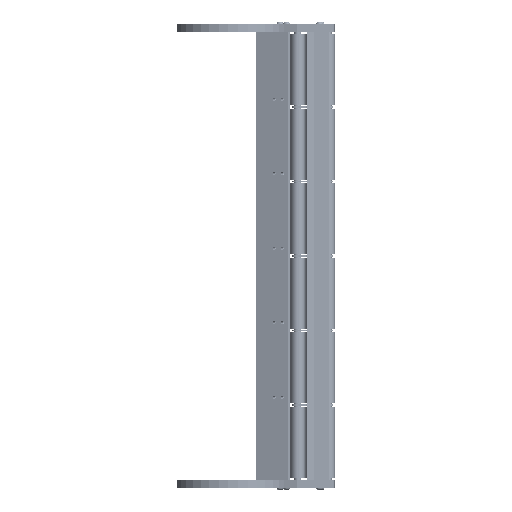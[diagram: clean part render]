
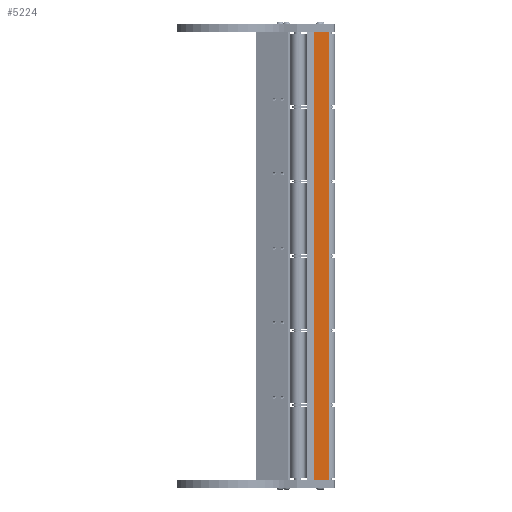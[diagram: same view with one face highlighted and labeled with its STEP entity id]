
A CAD part, front view. The second image highlights one B-rep face of the part: STEP entity #5224.
In plain terms, the highlighted planar face has unit normal (0.768, -0.641, 0) as drawn and (0, 1, 0) by its records, which use the part's own axes.
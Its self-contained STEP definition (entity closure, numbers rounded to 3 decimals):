
#778 = CARTESIAN_POINT ( 'NONE',  ( 25., 13.9, 0. ) ) ;
#908 = ORIENTED_EDGE ( 'NONE', *, *, #2297, .F. ) ;
#1076 = FACE_OUTER_BOUND ( 'NONE', #4120, .T. ) ;
#1355 = CARTESIAN_POINT ( 'NONE',  ( 25., 13.9, 0. ) ) ;
#1608 = CARTESIAN_POINT ( 'NONE',  ( 25., 13.9, 468. ) ) ;
#2297 = EDGE_CURVE ( 'NONE', #14665, #4362, #8223, .T. ) ;
#3270 = ORIENTED_EDGE ( 'NONE', *, *, #17933, .F. ) ;
#3671 = AXIS2_PLACEMENT_3D ( 'NONE', #12179, #9361, #17741 ) ;
#4120 = EDGE_LOOP ( 'NONE', ( #13201, #908, #3270, #10222 ) ) ;
#4362 = VERTEX_POINT ( 'NONE', #13873 ) ;
#5224 = ADVANCED_FACE ( 'NONE', ( #1076 ), #6640, .F. ) ;
#6199 = VECTOR ( 'NONE', #9920, 1000. ) ;
#6640 = PLANE ( 'NONE',  #3671 ) ;
#6706 = CARTESIAN_POINT ( 'NONE',  ( 0., 13.9, 468. ) ) ;
#7026 = CARTESIAN_POINT ( 'NONE',  ( 0., 13.9, 468. ) ) ;
#7104 = DIRECTION ( 'NONE',  ( 0., 0., -1. ) ) ;
#7976 = VECTOR ( 'NONE', #7104, 1000. ) ;
#8223 = LINE ( 'NONE', #6706, #13901 ) ;
#8468 = VECTOR ( 'NONE', #15897, 1000. ) ;
#9284 = VERTEX_POINT ( 'NONE', #15305 ) ;
#9361 = DIRECTION ( 'NONE',  ( 0., -1., 0. ) ) ;
#9746 = EDGE_CURVE ( 'NONE', #14530, #4362, #11893, .T. ) ;
#9920 = DIRECTION ( 'NONE',  ( -1., 0., 0. ) ) ;
#10222 = ORIENTED_EDGE ( 'NONE', *, *, #12991, .T. ) ;
#10872 = CARTESIAN_POINT ( 'NONE',  ( 25., 13.9, 468. ) ) ;
#11893 = LINE ( 'NONE', #778, #8468 ) ;
#12179 = CARTESIAN_POINT ( 'NONE',  ( 25., 13.9, 468. ) ) ;
#12242 = DIRECTION ( 'NONE',  ( 0., 0., -1. ) ) ;
#12745 = LINE ( 'NONE', #10872, #7976 ) ;
#12991 = EDGE_CURVE ( 'NONE', #9284, #14530, #12745, .T. ) ;
#13201 = ORIENTED_EDGE ( 'NONE', *, *, #9746, .T. ) ;
#13873 = CARTESIAN_POINT ( 'NONE',  ( 0., 13.9, 0. ) ) ;
#13901 = VECTOR ( 'NONE', #12242, 1000. ) ;
#14090 = LINE ( 'NONE', #1608, #6199 ) ;
#14530 = VERTEX_POINT ( 'NONE', #1355 ) ;
#14665 = VERTEX_POINT ( 'NONE', #7026 ) ;
#15305 = CARTESIAN_POINT ( 'NONE',  ( 25., 13.9, 468. ) ) ;
#15897 = DIRECTION ( 'NONE',  ( -1., 0., 0. ) ) ;
#17741 = DIRECTION ( 'NONE',  ( 1., 0., 0. ) ) ;
#17933 = EDGE_CURVE ( 'NONE', #9284, #14665, #14090, .T. ) ;
